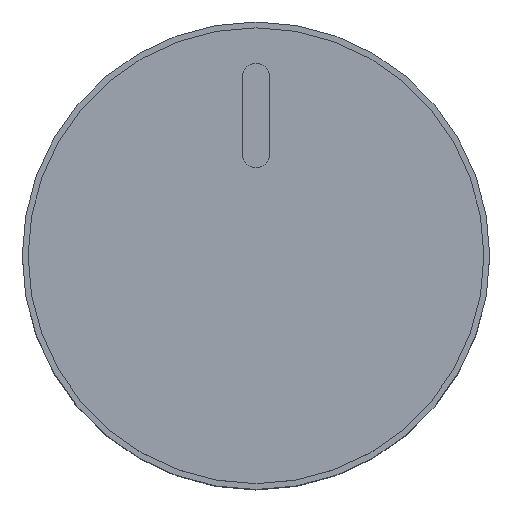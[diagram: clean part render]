
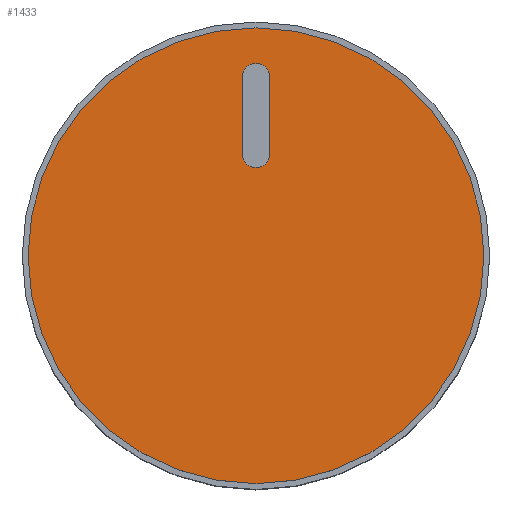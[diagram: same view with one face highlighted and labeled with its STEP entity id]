
A CAD part, top view. The second image highlights one B-rep face of the part: STEP entity #1433.
In plain terms, the highlighted planar face has unit normal (0, 0, 1).
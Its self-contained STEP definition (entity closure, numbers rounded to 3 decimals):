
#1348 = VERTEX_POINT('',#1349);
#1349 = CARTESIAN_POINT('',(12.875,2.5,24.56));
#1356 = CYLINDRICAL_SURFACE('',#1357,6.825);
#1357 = AXIS2_PLACEMENT_3D('',#1358,#1359,#1360);
#1358 = CARTESIAN_POINT('',(6.05,2.5,24.3));
#1359 = DIRECTION('',(-0.,-0.,-1.));
#1360 = DIRECTION('',(1.,0.,0.));
#1375 = EDGE_CURVE('',#1348,#1348,#1376,.T.);
#1376 = SURFACE_CURVE('',#1377,(#1382,#1389),.PCURVE_S1.);
#1377 = CIRCLE('',#1378,6.825);
#1378 = AXIS2_PLACEMENT_3D('',#1379,#1380,#1381);
#1379 = CARTESIAN_POINT('',(6.05,2.5,24.56));
#1380 = DIRECTION('',(0.,0.,1.));
#1381 = DIRECTION('',(1.,0.,0.));
#1382 = PCURVE('',#1356,#1383);
#1383 = DEFINITIONAL_REPRESENTATION('',(#1384),#1388);
#1384 = LINE('',#1385,#1386);
#1385 = CARTESIAN_POINT('',(-0.,-0.26));
#1386 = VECTOR('',#1387,1.);
#1387 = DIRECTION('',(-1.,0.));
#1388 = ( GEOMETRIC_REPRESENTATION_CONTEXT(2) 
PARAMETRIC_REPRESENTATION_CONTEXT() REPRESENTATION_CONTEXT('2D SPACE',''
  ) );
#1389 = PCURVE('',#1390,#1395);
#1390 = PLANE('',#1391);
#1391 = AXIS2_PLACEMENT_3D('',#1392,#1393,#1394);
#1392 = CARTESIAN_POINT('',(6.05,2.5,24.56));
#1393 = DIRECTION('',(0.,0.,1.));
#1394 = DIRECTION('',(1.,0.,-0.));
#1395 = DEFINITIONAL_REPRESENTATION('',(#1396),#1400);
#1396 = CIRCLE('',#1397,6.825);
#1397 = AXIS2_PLACEMENT_2D('',#1398,#1399);
#1398 = CARTESIAN_POINT('',(0.,0.));
#1399 = DIRECTION('',(1.,0.));
#1400 = ( GEOMETRIC_REPRESENTATION_CONTEXT(2) 
PARAMETRIC_REPRESENTATION_CONTEXT() REPRESENTATION_CONTEXT('2D SPACE',''
  ) );
#1433 = ADVANCED_FACE('',(#1434),#1390,.T.);
#1434 = FACE_BOUND('',#1435,.T.);
#1435 = EDGE_LOOP('',(#1436));
#1436 = ORIENTED_EDGE('',*,*,#1375,.T.);
